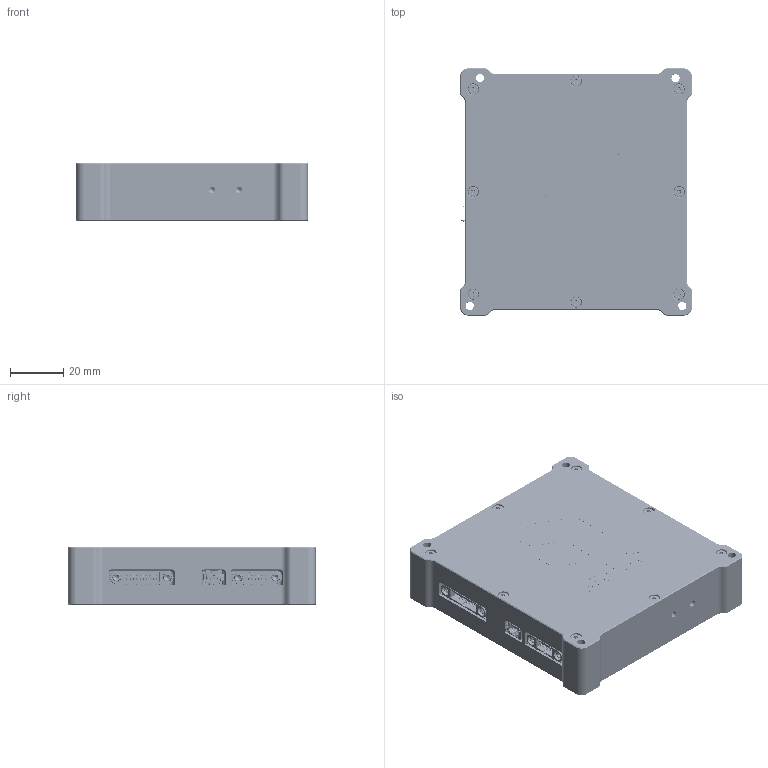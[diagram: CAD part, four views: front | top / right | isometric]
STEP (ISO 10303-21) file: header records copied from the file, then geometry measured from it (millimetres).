
FILE_DESCRIPTION (( 'STEP AP214' ), '1' );
FILE_NAME ('SRX-8_revC_simple.STEP', '2025-08-07T15:03:07', ( '' ), ( '' ), 'SwSTEP 2.0', 'SolidWorks 2024', '' );
FILE_SCHEMA (( 'AUTOMOTIVE_DESIGN' ));
Length unit declared in the file: millimetre
Products named in the file (11): srx8-buc_C_simplified; srx8-bb_PN2414C_simplified; M1.6x5_TX5(A1458301605A4); 70M02-03; 19k102-k00xx_shrink; 70M03-03; M2x8_TX6(A145800208); M2x6_TX6(145800206)_new; SRX-8_revC_simple; 70M01-03; M1.6x3_TX5(A1458301603A4)
Assembly tree (58 placements, depth 2):
  SRX-8_revC_simple
    70M01-03
    srx8-buc_C_simplified
    srx8-bb_PN2414C_simplified
    19k102-k00xx_shrink
    M1.6x5_TX5(A1458301605A4)  x30
    M2x6_TX6(145800206)_new  x4
    M1.6x3_TX5(A1458301603A4)  x2
    70M02-03
    70M03-03
    M2x8_TX6(A145800208)  x16
Bounding box: 87.2 x 93 x 22 mm (x, y, z)
Volume: 91841.2 mm3; surface area: 103363.5 mm2
Topology: 130 solids, 130 shells, 18890 faces, 47175 edges, 28849 vertices
Faces by surface type: plane 6321, bspline 5223, cylinder 4880, torus 1499, cone 957, sphere 10
Entity records: 854272 total; most frequent: CARTESIAN_POINT 360952, ORIENTED_EDGE 81716, DIRECTION 63771, EDGE_CURVE 40858, VERTEX_POINT 25202, AXIS2_PLACEMENT_3D 22397, LINE 18977, VECTOR 18977
